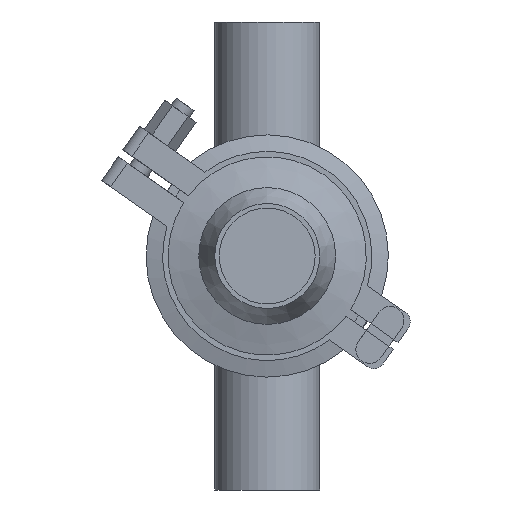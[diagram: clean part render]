
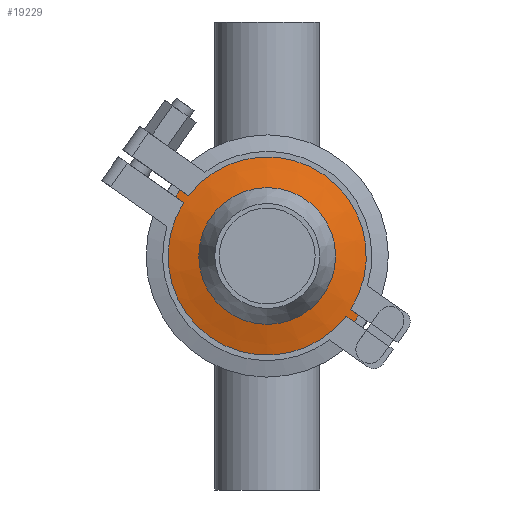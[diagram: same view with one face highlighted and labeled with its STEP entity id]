
A CAD part, front view. The second image highlights one B-rep face of the part: STEP entity #19229.
In plain terms, the highlighted conical face has half-angle 75 degrees and reference radius 39.75 mm.
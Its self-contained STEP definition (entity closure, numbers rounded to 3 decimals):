
#286 = CONICAL_SURFACE ( 'NONE', #13279, 39.75, 1.309 ) ;
#1049 = EDGE_LOOP ( 'NONE', ( #17456 ) ) ;
#1158 = VERTEX_POINT ( 'NONE', #4024 ) ;
#1165 = CARTESIAN_POINT ( 'NONE',  ( 0., 5.5, 0. ) ) ;
#2159 = CARTESIAN_POINT ( 'NONE',  ( 0., 1.506, 24.846 ) ) ;
#2476 = CARTESIAN_POINT ( 'NONE',  ( 0., 1.506, 0. ) ) ;
#3093 = EDGE_CURVE ( 'NONE', #15645, #15645, #7814, .T. ) ;
#3346 = FACE_BOUND ( 'NONE', #16923, .T. ) ;
#3744 = CARTESIAN_POINT ( 'NONE',  ( 0., 5.5, 0. ) ) ;
#4024 = CARTESIAN_POINT ( 'NONE',  ( 0., 5.5, 39.75 ) ) ;
#4662 = AXIS2_PLACEMENT_3D ( 'NONE', #2476, #9700, #8237 ) ;
#4952 = FACE_OUTER_BOUND ( 'NONE', #1049, .T. ) ;
#6570 = ORIENTED_EDGE ( 'NONE', *, *, #3093, .T. ) ;
#7814 = CIRCLE ( 'NONE', #4662, 24.846 ) ;
#8237 = DIRECTION ( 'NONE',  ( 0., 0., 1. ) ) ;
#9688 = DIRECTION ( 'NONE',  ( 0., 0., 1. ) ) ;
#9700 = DIRECTION ( 'NONE',  ( 0., 1., 0. ) ) ;
#10795 = EDGE_CURVE ( 'NONE', #1158, #1158, #11386, .T. ) ;
#11386 = CIRCLE ( 'NONE', #14575, 39.75 ) ;
#13279 = AXIS2_PLACEMENT_3D ( 'NONE', #3744, #17242, #9688 ) ;
#13557 = DIRECTION ( 'NONE',  ( 0., 0., 1. ) ) ;
#14575 = AXIS2_PLACEMENT_3D ( 'NONE', #1165, #19557, #13557 ) ;
#15645 = VERTEX_POINT ( 'NONE', #2159 ) ;
#16923 = EDGE_LOOP ( 'NONE', ( #6570 ) ) ;
#17242 = DIRECTION ( 'NONE',  ( 0., 1., 0. ) ) ;
#17456 = ORIENTED_EDGE ( 'NONE', *, *, #10795, .F. ) ;
#19229 = ADVANCED_FACE ( 'NONE', ( #3346, #4952 ), #286, .T. ) ;
#19557 = DIRECTION ( 'NONE',  ( 0., 1., 0. ) ) ;
